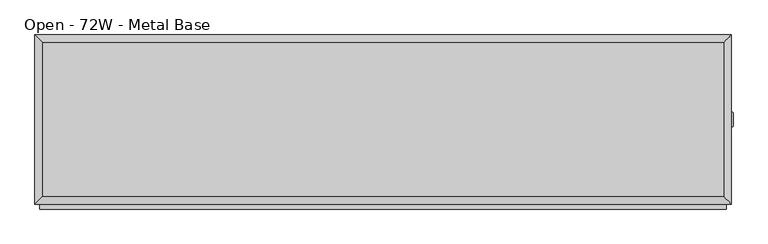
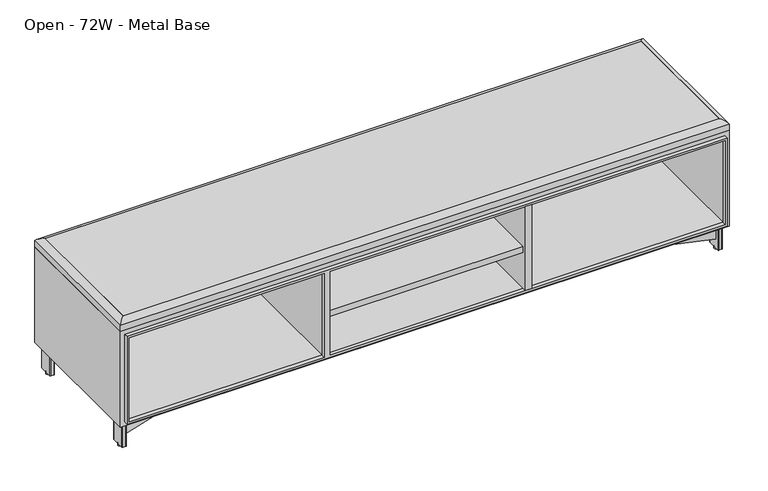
"""IFC4 building model written with IfcOpenShell, lengths in millimetres: furniture geometry, Steelcase Coalesse - Exponents - Seating - Bench : Open - 72W - Metal Base."""

from ifc_helpers import new_model, si_unit, point, frame, frame_2d, origin, origin_with_axes, place, context, project, spatial, polyline, circle_curve, ellipse_curve, trimmed, segment, composite_curve, outline, extrude, faceted_brep, source, transform, mapped, element, save
from ifc_brep_helpers import plane_surface, cylinder_surface, advanced_brep


def open_72w_metal_base_4fd4d835(model_context):
    return source(origin(), model_context, "Body", "SolidModel", [
        extrude(outline(composite_curve([segment(trimmed(circle_curve(frame_2d((1831.848, 252.476)), 1.524), [point((1831.848, 254.0))], [point((1833.372, 252.476))], False, "CARTESIAN"), True, "CONTINUOUS"), segment(polyline([(1833.372, 252.476), (1833.372, 217.424)]), True, "CONTINUOUS"), segment(trimmed(circle_curve(frame_2d((1831.848, 217.424)), 1.524), [point((1833.372, 217.424))], [point((1831.848, 215.9))], False, "CARTESIAN"), True, "CONTINUOUS"), segment(polyline([(1831.848, 215.9), (1815.958829, 215.9)]), True, "CONTINUOUS"), segment(trimmed(circle_curve(frame_2d((1815.958829, 217.536829)), 1.636829), [point((1815.958829, 215.9))], [point((1814.322, 217.536829))], False, "CARTESIAN"), True, "CONTINUOUS"), segment(polyline([(1814.322, 217.536829), (1814.322, 252.476)]), True, "CONTINUOUS"), segment(trimmed(circle_curve(frame_2d((1815.846, 252.476)), 1.524), [point((1814.322, 252.476))], [point((1815.846, 254.0))], False, "CARTESIAN"), True, "CONTINUOUS"), segment(polyline([(1815.846, 254.0), (1831.848, 254.0)]), True, "CONTINUOUS")], self_intersect=False)), frame((0.0, 0.0, 6.3754), z_axis=(0.0, 0.0, 1.0), x_axis=(1.0, 0.0, 0.0)), (0.0, 0.0, 1.0), 73.152),
        faceted_brep([(1803.019, 428.1633485, 82.55), (1223.772, 251.7961151, 82.55), (1223.772, 218.1038849, 82.55), (1803.019, 37.8529725, 82.55), (1803.019, 57.8040065, 82.55), (1233.7498412, 234.95, 82.55), (1803.019, 408.2123144, 82.55), (1803.019, 428.1633485, 34.925), (1803.019, 408.2123144, 34.925), (1233.8031998, 234.9333958, 34.925), (1803.019, 57.8040065, 34.925), (1803.019, 37.8529725, 34.925), (1223.772, 218.1038849, 34.925), (1223.772, 251.7961151, 34.925)], [[[0, 1, 2, 3, 4, 5, 6]], [[7, 8, 9, 10, 11, 12, 13]], [[1, 0, 7, 13]], [[2, 1, 13, 12]], [[3, 2, 12, 11]], [[4, 3, 11, 10]], [[5, 4, 10, 9]], [[6, 5, 9, 8]], [[0, 6, 8, 7]]]),
        extrude(outline(polyline([(1209.548, 12.7), (623.824, 12.7), (623.824, 438.15), (1209.548, 438.15), (1209.548, 12.7)])), frame((0.0, 0.0, 215.9), z_axis=(0.0, 0.0, 1.0), x_axis=(1.0, 0.0, 0.0)), (0.0, 0.0, 1.0), 19.05),
        advanced_brep(
        [(0.0, 12.7, 406.6283237), (0.0, 12.7, 387.35), (1828.8, 12.7, 387.35), (1828.8, 12.7, 406.6283237), (1828.8, 457.2, 406.6283237), (1828.8, 457.2, 387.35), (0.0, 457.2, 387.35), (0.0, 457.2, 406.6283237), (1809.75, 31.75, 406.6283237), (1809.75, 438.15, 406.6283237), (19.05, 438.15, 406.6283237), (19.05, 31.75, 406.6283237), (1809.75, 438.15, 419.0696271), (1809.75, 31.75, 419.0696271), (19.05, 31.75, 419.0696271), (19.05, 438.15, 419.0696271)],
        [
            (0, 1),
            (1, 2),
            (2, 3),
            (3, 0),
            (4, 5),
            (5, 6),
            (6, 7),
            (7, 4),
            (8, 9),
            (9, 10),
            (10, 11),
            (11, 8),
            (0, 7),
            (6, 1),
            (5, 2),
            (4, 3),
            (12, 9),
            (8, 13),
            (13, 12),
            (13, 3, ellipse_curve(frame((1808.1973666, 33.3026334, 395.8870134), z_axis=(0.7071067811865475, 0.7071067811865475, 0.0), x_axis=(-0.7071067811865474, 0.7071067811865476, 0.0)), 32.8586138, 23.2345486)),
            (4, 12, ellipse_curve(frame((1808.1973666, 436.5973666, 395.8870134), z_axis=(0.7071067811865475, -0.7071067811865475, 0.0), x_axis=(0.7071067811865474, 0.7071067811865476, 0.0)), 32.8586138, 23.2345486)),
            (11, 14),
            (14, 13),
            (14, 0, ellipse_curve(frame((20.6026334, 33.3026334, 395.8870134), z_axis=(0.7071067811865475, -0.7071067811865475, 0.0), x_axis=(0.7071067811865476, 0.7071067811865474, 0.0)), 32.8586138, 23.2345486)),
            (10, 15),
            (15, 14),
            (15, 7, ellipse_curve(frame((20.6026334, 436.5973666, 395.8870134), z_axis=(-0.7071067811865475, -0.7071067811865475, 0.0), x_axis=(0.7071067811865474, -0.7071067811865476, 0.0)), 32.8586138, 23.2345486)),
            (12, 15),
        ],
        [
            plane_surface(frame((0.0, 12.7, 406.6283237), z_axis=(0.0, -1.0, 0.0), x_axis=(-1.0, 0.0, 0.0))),
            plane_surface(frame((0.0, 457.2, 406.6283237), z_axis=(0.0, 1.0, 0.0), x_axis=(1.0, 0.0, 0.0))),
            plane_surface(frame((1828.8, 12.7, 406.6283237), z_axis=(0.0, 0.0, 1.0), x_axis=(0.0, 1.0, 0.0))),
            plane_surface(frame((0.0, 12.7, 406.6283237), z_axis=(-1.0, 0.0, 1.9588398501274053e-12), x_axis=(0.0, 1.0, 0.0))),
            plane_surface(frame((0.0, 12.7, 387.35), z_axis=(0.0, 0.0, -1.0), x_axis=(0.0, 1.0, 0.0))),
            plane_surface(frame((1828.8, 12.7, 387.35), z_axis=(1.0, 0.0, 0.0), x_axis=(0.0, 1.0, 0.0))),
            plane_surface(frame((1809.75, 438.15, 406.6284102), z_axis=(-1.0, 0.0, 0.0), x_axis=(0.0, -1.0, 0.0))),
            cylinder_surface(frame((1808.1973666, 457.2, 395.8870134), z_axis=(0.0, 1.0, 0.0), x_axis=(1.0, 0.0, 0.0)), 23.2345486),
            plane_surface(frame((1809.75, 31.75, 406.6284102), z_axis=(0.0, 1.0, 0.0), x_axis=(-1.0, 0.0, 0.0))),
            cylinder_surface(frame((1828.8, 33.3026334, 395.8870134), z_axis=(1.0, 0.0, 0.0), x_axis=(0.0, -1.0, 0.0)), 23.2345486),
            plane_surface(frame((19.05, 31.75, 406.6284102), z_axis=(1.0, 0.0, 0.0), x_axis=(0.0, 1.0, 0.0))),
            cylinder_surface(frame((20.6026334, 12.7, 395.8870134), z_axis=(0.0, -1.0, 0.0), x_axis=(-1.0, 0.0, 0.0)), 23.2345486),
            plane_surface(frame((19.05, 438.15, 406.6284102), z_axis=(0.0, -1.0, 0.0), x_axis=(1.0, 0.0, 0.0))),
            cylinder_surface(frame((0.0, 436.5973666, 395.8870134), z_axis=(-1.0, 0.0, 0.0), x_axis=(0.0, 1.0, 0.0)), 23.2345486),
        ],
        [
            (0, [[1, 2, 3, 4]]),
            (1, [[5, 6, 7, 8]]),
            (2, [[9, 10, 11, 12]]),
            (3, [[-1, 13, -7, 14]]),
            (4, [[-2, -14, -6, 15]]),
            (5, [[-3, -15, -5, 16]]),
            (6, [[17, -9, 18, 19]]),
            (7, [[-19, 20, -16, 21]]),
            (8, [[-18, -12, 22, 23]]),
            (9, [[-20, -23, 24, -4]]),
            (10, [[-22, -11, 25, 26]]),
            (11, [[-24, -26, 27, -13]]),
            (12, [[-17, 28, -25, -10]]),
            (13, [[-21, -8, -27, -28]]),
        ],
    ),
        extrude(outline(composite_curve([segment(trimmed(circle_curve(frame_2d((1219.3711957, 234.844279)), 6.35), [point((1213.0211957, 234.844279))], [point((1225.7211957, 234.844279))], False, "CARTESIAN"), True, "CONTINUOUS"), segment(trimmed(circle_curve(frame_2d((1219.3711957, 234.844279)), 6.35), [point((1225.7211957, 234.844279))], [point((1213.0211957, 234.844279))], False, "CARTESIAN"), True, "CONTINUOUS")], self_intersect=False)), origin_with_axes(), (0.0, 0.0, 1.0), 6.3754),
        extrude(outline(composite_curve([segment(trimmed(circle_curve(frame_2d((1227.074, 252.476)), 1.524), [point((1227.074, 254.0))], [point((1228.598, 252.476))], False, "CARTESIAN"), True, "CONTINUOUS"), segment(polyline([(1228.598, 252.476), (1228.598, 217.424)]), True, "CONTINUOUS"), segment(trimmed(circle_curve(frame_2d((1227.074, 217.424)), 1.524), [point((1228.598, 217.424))], [point((1227.074, 215.9))], False, "CARTESIAN"), True, "CONTINUOUS"), segment(polyline([(1227.074, 215.9), (1211.184829, 215.9)]), True, "CONTINUOUS"), segment(trimmed(circle_curve(frame_2d((1211.184829, 217.536829)), 1.636829), [point((1211.184829, 215.9))], [point((1209.548, 217.536829))], False, "CARTESIAN"), True, "CONTINUOUS"), segment(polyline([(1209.548, 217.536829), (1209.548, 252.476)]), True, "CONTINUOUS"), segment(trimmed(circle_curve(frame_2d((1211.072, 252.476)), 1.524), [point((1209.548, 252.476))], [point((1211.072, 254.0))], False, "CARTESIAN"), True, "CONTINUOUS"), segment(polyline([(1211.072, 254.0), (1227.074, 254.0)]), True, "CONTINUOUS")], self_intersect=False)), frame((0.0, 0.0, 6.3754), z_axis=(0.0, 0.0, 1.0), x_axis=(1.0, 0.0, 0.0)), (0.0, 0.0, 1.0), 73.152),
        extrude(outline(polyline([(1265.2060257, 285.75), (1265.2060257, 184.15), (1163.6060257, 184.15), (1163.6060257, 285.75), (1265.2060257, 285.75)])), frame((0.0, 0.0, 79.5274), z_axis=(0.0, 0.0, 1.0), x_axis=(1.0, 0.0, 0.0)), (0.0, 0.0, 1.0), 3.048),
        extrude(outline(composite_curve([segment(trimmed(circle_curve(frame_2d((614.4757069, 234.844279)), 6.35), [point((608.1257069, 234.844279))], [point((620.8257069, 234.844279))], False, "CARTESIAN"), True, "CONTINUOUS"), segment(trimmed(circle_curve(frame_2d((614.4757069, 234.844279)), 6.35), [point((620.8257069, 234.844279))], [point((608.1257069, 234.844279))], False, "CARTESIAN"), True, "CONTINUOUS")], self_intersect=False)), origin_with_axes(), (0.0, 0.0, 1.0), 6.3754),
        extrude(outline(composite_curve([segment(trimmed(circle_curve(frame_2d((622.3, 252.476)), 1.524), [point((622.3, 254.0))], [point((623.824, 252.476))], False, "CARTESIAN"), True, "CONTINUOUS"), segment(polyline([(623.824, 252.476), (623.824, 217.424)]), True, "CONTINUOUS"), segment(trimmed(circle_curve(frame_2d((622.3, 217.424)), 1.524), [point((623.824, 217.424))], [point((622.3, 215.9))], False, "CARTESIAN"), True, "CONTINUOUS"), segment(polyline([(622.3, 215.9), (606.410829, 215.9)]), True, "CONTINUOUS"), segment(trimmed(circle_curve(frame_2d((606.410829, 217.536829)), 1.636829), [point((606.410829, 215.9))], [point((604.774, 217.536829))], False, "CARTESIAN"), True, "CONTINUOUS"), segment(polyline([(604.774, 217.536829), (604.774, 252.476)]), True, "CONTINUOUS"), segment(trimmed(circle_curve(frame_2d((606.298, 252.476)), 1.524), [point((604.774, 252.476))], [point((606.298, 254.0))], False, "CARTESIAN"), True, "CONTINUOUS"), segment(polyline([(606.298, 254.0), (622.3, 254.0)]), True, "CONTINUOUS")], self_intersect=False)), frame((0.0, 0.0, 6.3754), z_axis=(0.0, 0.0, 1.0), x_axis=(1.0, 0.0, 0.0)), (0.0, 0.0, 1.0), 73.152),
        extrude(outline(polyline([(1228.598, 438.15), (1228.598, 0.0), (1209.548, 0.0), (1209.548, 438.15), (1228.598, 438.15)])), frame((0.0, 0.0, 101.6), z_axis=(0.0, 0.0, 1.0), x_axis=(1.0, 0.0, 0.0)), (0.0, 0.0, 1.0), 266.7),
        faceted_brep([(1828.8, 12.7, 387.35), (0.0, 12.7, 387.35), (0.0, 12.7, 82.55), (1828.8, 12.7, 82.55), (19.05, 12.7, 368.0968), (604.774, 12.7, 368.0968), (604.774, 12.7, 101.8032), (19.05, 12.7, 101.8032), (623.824, 12.7, 368.0968), (1809.75, 12.7, 368.0968), (1809.75, 12.7, 101.8032), (623.824, 12.7, 101.8032), (1828.8, 457.2, 387.35), (1828.8, 457.2, 82.55), (0.0, 457.2, 82.55), (0.0, 457.2, 387.35), (604.774, 438.15, 368.0968), (19.05, 438.15, 368.0968), (19.05, 438.15, 101.8032), (604.774, 438.15, 101.8032), (1809.75, 438.15, 368.0968), (623.824, 438.15, 368.0968), (623.824, 438.15, 101.8032), (1809.75, 438.15, 101.8032)], [[[0, 1, 2, 3], [4, 5, 6, 7], [8, 9, 10, 11]], [[12, 13, 14, 15]], [[1, 0, 12, 15]], [[2, 1, 15, 14]], [[3, 2, 14, 13]], [[0, 3, 13, 12]], [[16, 17, 18, 19]], [[20, 21, 22, 23]], [[17, 16, 5, 4]], [[18, 17, 4, 7]], [[19, 18, 7, 6]], [[16, 19, 6, 5]], [[21, 20, 9, 8]], [[22, 21, 8, 11]], [[23, 22, 11, 10]], [[20, 23, 10, 9]]]),
        extrude(outline(polyline([(660.4, 285.75), (660.4, 184.15), (558.8, 184.15), (558.8, 285.75), (660.4, 285.75)])), frame((0.0, 0.0, 79.5274), z_axis=(0.0, 0.0, 1.0), x_axis=(1.0, 0.0, 0.0)), (0.0, 0.0, 1.0), 3.048),
        extrude(outline(composite_curve([segment(trimmed(circle_curve(frame_2d((19.163053, 47.5933344)), 6.35), [point((25.513053, 47.5933344))], [point((12.813053, 47.5933344))], False, "CARTESIAN"), True, "CONTINUOUS"), segment(trimmed(circle_curve(frame_2d((19.163053, 47.5933344)), 6.35), [point((12.813053, 47.5933344))], [point((25.513053, 47.5933344))], False, "CARTESIAN"), True, "CONTINUOUS")], self_intersect=False)), origin_with_axes(), (0.0, 0.0, 1.0), 6.3754),
        extrude(outline(composite_curve([segment(trimmed(circle_curve(frame_2d((14.224, 26.924)), 1.524), [point((14.224, 25.4))], [point((12.7, 26.924))], False, "CARTESIAN"), True, "CONTINUOUS"), segment(polyline([(12.7, 26.924), (12.7, 68.326)]), True, "CONTINUOUS"), segment(trimmed(circle_curve(frame_2d((14.224, 68.326)), 1.524), [point((12.7, 68.326))], [point((14.224, 69.85))], False, "CARTESIAN"), True, "CONTINUOUS"), segment(polyline([(14.224, 69.85), (23.661571, 69.85)]), True, "CONTINUOUS"), segment(trimmed(circle_curve(frame_2d((23.661571, 68.213171)), 1.636829), [point((23.661571, 69.85))], [point((25.2984, 68.213171))], False, "CARTESIAN"), True, "CONTINUOUS"), segment(polyline([(25.2984, 68.213171), (25.2984, 26.924)]), True, "CONTINUOUS"), segment(trimmed(circle_curve(frame_2d((23.7744, 26.924)), 1.524), [point((25.2984, 26.924))], [point((23.7744, 25.4))], False, "CARTESIAN"), True, "CONTINUOUS"), segment(polyline([(23.7744, 25.4), (14.224, 25.4)]), True, "CONTINUOUS")], self_intersect=False)), frame((0.0, 0.0, 6.3754), z_axis=(0.0, 0.0, 1.0), x_axis=(1.0, 0.0, 0.0)), (0.0, 0.0, 1.0), 73.152),
        extrude(outline(polyline([(6.35, 19.05), (6.35, 120.65), (107.95, 120.65), (107.95, 19.05), (6.35, 19.05)])), frame((0.0, 0.0, 79.5274), z_axis=(0.0, 0.0, 1.0), x_axis=(1.0, 0.0, 0.0)), (0.0, 0.0, 1.0), 3.048),
        extrude(outline(composite_curve([segment(trimmed(circle_curve(frame_2d((19.163053, 422.3066656)), 6.35), [point((25.513053, 422.3066656))], [point((12.813053, 422.3066656))], False, "CARTESIAN"), True, "CONTINUOUS"), segment(trimmed(circle_curve(frame_2d((19.163053, 422.3066656)), 6.35), [point((12.813053, 422.3066656))], [point((25.513053, 422.3066656))], False, "CARTESIAN"), True, "CONTINUOUS")], self_intersect=False)), origin_with_axes(), (0.0, 0.0, 1.0), 6.3754),
        extrude(outline(composite_curve([segment(polyline([(14.224, 444.5), (23.7744, 444.5)]), True, "CONTINUOUS"), segment(trimmed(circle_curve(frame_2d((23.7744, 442.976)), 1.524), [point((23.7744, 444.5))], [point((25.2984, 442.976))], False, "CARTESIAN"), True, "CONTINUOUS"), segment(polyline([(25.2984, 442.976), (25.2984, 401.686829)]), True, "CONTINUOUS"), segment(trimmed(circle_curve(frame_2d((23.661571, 401.686829)), 1.636829), [point((25.2984, 401.686829))], [point((23.661571, 400.05))], False, "CARTESIAN"), True, "CONTINUOUS"), segment(polyline([(23.661571, 400.05), (14.224, 400.05)]), True, "CONTINUOUS"), segment(trimmed(circle_curve(frame_2d((14.224, 401.574)), 1.524), [point((14.224, 400.05))], [point((12.7, 401.574))], False, "CARTESIAN"), True, "CONTINUOUS"), segment(polyline([(12.7, 401.574), (12.7, 442.976)]), True, "CONTINUOUS"), segment(trimmed(circle_curve(frame_2d((14.224, 442.976)), 1.524), [point((12.7, 442.976))], [point((14.224, 444.5))], False, "CARTESIAN"), True, "CONTINUOUS")], self_intersect=False)), frame((0.0, 0.0, 6.3754), z_axis=(0.0, 0.0, 1.0), x_axis=(1.0, 0.0, 0.0)), (0.0, 0.0, 1.0), 73.152),
        extrude(outline(polyline([(6.35, 450.85), (107.95, 450.85), (107.95, 349.25), (6.35, 349.25), (6.35, 450.85)])), frame((0.0, 0.0, 79.5274), z_axis=(0.0, 0.0, 1.0), x_axis=(1.0, 0.0, 0.0)), (0.0, 0.0, 1.0), 3.048),
        extrude(outline(composite_curve([segment(trimmed(circle_curve(frame_2d((1809.4706, 47.5933344)), 6.35), [point((1803.1206, 47.5933344))], [point((1815.8206, 47.5933344))], False, "CARTESIAN"), True, "CONTINUOUS"), segment(trimmed(circle_curve(frame_2d((1809.4706, 47.5933344)), 6.35), [point((1815.8206, 47.5933344))], [point((1803.1206, 47.5933344))], False, "CARTESIAN"), True, "CONTINUOUS")], self_intersect=False)), origin_with_axes(), (0.0, 0.0, 1.0), 6.3754),
        extrude(outline(composite_curve([segment(polyline([(1814.2966, 25.4), (1804.543, 25.4)]), True, "CONTINUOUS"), segment(trimmed(circle_curve(frame_2d((1804.543, 26.924)), 1.524), [point((1804.543, 25.4))], [point((1803.019, 26.924))], False, "CARTESIAN"), True, "CONTINUOUS"), segment(polyline([(1803.019, 26.924), (1803.019, 68.213171)]), True, "CONTINUOUS"), segment(trimmed(circle_curve(frame_2d((1804.655829, 68.213171)), 1.636829), [point((1803.019, 68.213171))], [point((1804.655829, 69.85))], False, "CARTESIAN"), True, "CONTINUOUS"), segment(polyline([(1804.655829, 69.85), (1814.2966, 69.85)]), True, "CONTINUOUS"), segment(trimmed(circle_curve(frame_2d((1814.2966, 68.326)), 1.524), [point((1814.2966, 69.85))], [point((1815.8206, 68.326))], False, "CARTESIAN"), True, "CONTINUOUS"), segment(polyline([(1815.8206, 68.326), (1815.8206, 26.924)]), True, "CONTINUOUS"), segment(trimmed(circle_curve(frame_2d((1814.2966, 26.924)), 1.524), [point((1815.8206, 26.924))], [point((1814.2966, 25.4))], False, "CARTESIAN"), True, "CONTINUOUS")], self_intersect=False)), frame((0.0, 0.0, 6.3754), z_axis=(0.0, 0.0, 1.0), x_axis=(1.0, 0.0, 0.0)), (0.0, 0.0, 1.0), 73.152),
        extrude(outline(polyline([(1822.41225, 19.05), (1720.85, 19.05), (1720.85, 120.65), (1822.41225, 120.65), (1822.41225, 19.05)])), frame((0.0, 0.0, 79.5274), z_axis=(0.0, 0.0, 1.0), x_axis=(1.0, 0.0, 0.0)), (0.0, 0.0, 1.0), 3.048),
        extrude(outline(polyline([(25.2984, 432.1805995), (604.774, 251.858551), (604.774, 218.041449), (25.2984, 37.7194005), (25.2984, 57.6704345), (594.9968002, 234.95), (25.2984, 412.2295655), (25.2984, 432.1805995)])), frame((0.0, 0.0, 34.925), z_axis=(0.0, 0.0, 1.0), x_axis=(1.0, 0.0, 0.0)), (0.0, 0.0, 1.0), 47.625),
        extrude(outline(composite_curve([segment(trimmed(circle_curve(frame_2d((1809.4706, 422.3066656)), 6.35), [point((1803.1206, 422.3066656))], [point((1815.8206, 422.3066656))], False, "CARTESIAN"), True, "CONTINUOUS"), segment(trimmed(circle_curve(frame_2d((1809.4706, 422.3066656)), 6.35), [point((1815.8206, 422.3066656))], [point((1803.1206, 422.3066656))], False, "CARTESIAN"), True, "CONTINUOUS")], self_intersect=False)), origin_with_axes(), (0.0, 0.0, 1.0), 6.3754),
        extrude(outline(composite_curve([segment(trimmed(circle_curve(frame_2d((1814.2966, 442.976)), 1.524), [point((1814.2966, 444.5))], [point((1815.8206, 442.976))], False, "CARTESIAN"), True, "CONTINUOUS"), segment(polyline([(1815.8206, 442.976), (1815.8206, 401.574)]), True, "CONTINUOUS"), segment(trimmed(circle_curve(frame_2d((1814.2966, 401.574)), 1.524), [point((1815.8206, 401.574))], [point((1814.2966, 400.05))], False, "CARTESIAN"), True, "CONTINUOUS"), segment(polyline([(1814.2966, 400.05), (1804.655829, 400.05)]), True, "CONTINUOUS"), segment(trimmed(circle_curve(frame_2d((1804.655829, 401.686829)), 1.636829), [point((1804.655829, 400.05))], [point((1803.019, 401.686829))], False, "CARTESIAN"), True, "CONTINUOUS"), segment(polyline([(1803.019, 401.686829), (1803.019, 442.976)]), True, "CONTINUOUS"), segment(trimmed(circle_curve(frame_2d((1804.543, 442.976)), 1.524), [point((1803.019, 442.976))], [point((1804.543, 444.5))], False, "CARTESIAN"), True, "CONTINUOUS"), segment(polyline([(1804.543, 444.5), (1814.2966, 444.5)]), True, "CONTINUOUS")], self_intersect=False)), frame((0.0, 0.0, 6.3754), z_axis=(0.0, 0.0, 1.0), x_axis=(1.0, 0.0, 0.0)), (0.0, 0.0, 1.0), 73.152),
        extrude(outline(polyline([(1822.41225, 450.85), (1822.41225, 349.25), (1720.85, 349.25), (1720.85, 450.85), (1822.41225, 450.85)])), frame((0.0, 0.0, 79.5274), z_axis=(0.0, 0.0, 1.0), x_axis=(1.0, 0.0, 0.0)), (0.0, 0.0, 1.0), 3.048),
        extrude(outline(polyline([(1809.75, 31.75), (19.05, 31.75), (19.05, 438.15), (1809.75, 438.15), (1809.75, 31.75)])), frame((0.0, 0.0, 406.6283237), z_axis=(0.0, 0.0, 1.0), x_axis=(1.0, 0.0, 0.0)), (0.0, 0.0, 1.0), 12.4413034),
        extrude(outline(polyline([(374.4468, 1815.8206), (374.4468, 12.7), (95.4532, 12.7), (95.4532, 1815.8206), (374.4468, 1815.8206)]), holes=[polyline([(368.0968, 623.824), (368.0968, 1809.75), (101.8032, 1809.75), (101.8032, 623.824), (368.0968, 623.824)]), polyline([(368.0968, 604.774), (101.8032, 604.774), (101.8032, 19.05), (368.0968, 19.05), (368.0968, 604.774)])]), frame((0.0, 0.0, 0.0), z_axis=(0.0, 1.0, 0.0), x_axis=(0.0, 0.0, 1.0)), (0.0, 0.0, 1.0), 12.7),
    ])


if __name__ == "__main__":
    model = new_model("IFC4")
    model_context = context("Model", 3, world=origin())
    ifc_project = project(units=[si_unit("LENGTHUNIT", "METRE", prefix="MILLI")], contexts=[model_context])
    site = spatial("IfcSite", under=ifc_project)
    building = spatial("IfcBuilding", under=site)
    placement = place(None, origin())
    open_72w_metal_base_shape = open_72w_metal_base_4fd4d835(model_context)
    element("IfcFurniture", 1, ObjectType="Steelcase Coalesse - Exponents - Seating - Bench : Open - 72W - Metal Base", at=placement, inside=building, context=model_context, shape_type="MappedRepresentation", body=[
        mapped(open_72w_metal_base_shape, transform((0.0, 0.0, 0.0), x_axis=(1.0, 0.0, 0.0), y_axis=(0.0, 1.0, 0.0), z_axis=(0.0, 0.0, 1.0))),
    ])
    save(model, "model.ifc")
